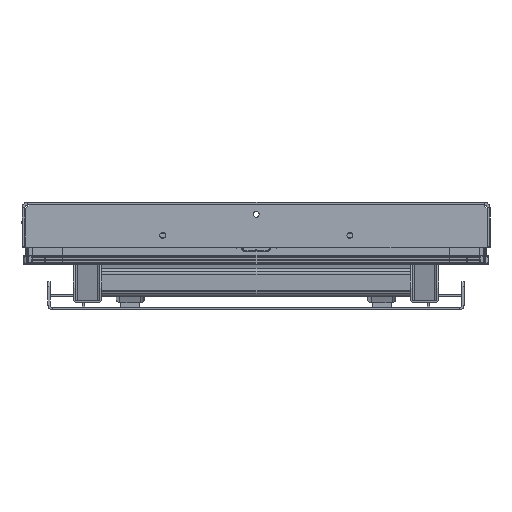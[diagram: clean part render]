
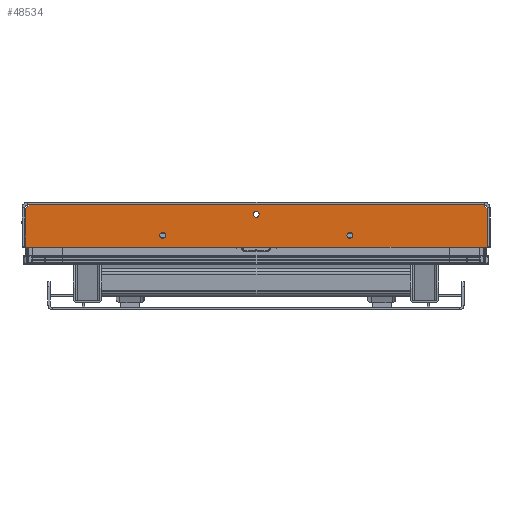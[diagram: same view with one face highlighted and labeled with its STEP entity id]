
A CAD part, front view. The second image highlights one B-rep face of the part: STEP entity #48534.
In plain terms, the highlighted planar face has unit normal (0, -1, 0) as drawn and (0, 0, 1) by its records, which use the part's own axes.
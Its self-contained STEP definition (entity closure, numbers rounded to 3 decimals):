
#3129=PLANE('',#52356);
#5491=LINE('',#73436,#9822);
#5497=LINE('',#73447,#9828);
#5502=LINE('',#73458,#9833);
#5505=LINE('',#73463,#9836);
#5506=LINE('',#73466,#9837);
#5508=LINE('',#73469,#9839);
#9822=VECTOR('',#60162,10.);
#9828=VECTOR('',#60170,10.);
#9833=VECTOR('',#60179,10.);
#9836=VECTOR('',#60184,10.);
#9837=VECTOR('',#60187,10.);
#9839=VECTOR('',#60191,10.);
#12974=FACE_BOUND('',#16917,.T.);
#12975=FACE_BOUND('',#16918,.T.);
#12976=FACE_BOUND('',#16919,.T.);
#14081=FACE_OUTER_BOUND('',#16916,.T.);
#16916=EDGE_LOOP('',(#37468,#37469,#37470,#37471,#37472,#37473));
#16917=EDGE_LOOP('',(#37474));
#16918=EDGE_LOOP('',(#37475));
#16919=EDGE_LOOP('',(#37476));
#19851=CIRCLE('',#52341,6.25);
#19853=CIRCLE('',#52344,6.25);
#19855=CIRCLE('',#52347,6.25);
#22546=VERTEX_POINT('',#73419);
#22548=VERTEX_POINT('',#73424);
#22550=VERTEX_POINT('',#73429);
#22552=VERTEX_POINT('',#73434);
#22553=VERTEX_POINT('',#73435);
#22557=VERTEX_POINT('',#73445);
#22561=VERTEX_POINT('',#73457);
#22562=VERTEX_POINT('',#73461);
#22563=VERTEX_POINT('',#73465);
#28029=EDGE_CURVE('',#22546,#22546,#19851,.T.);
#28031=EDGE_CURVE('',#22548,#22548,#19853,.T.);
#28033=EDGE_CURVE('',#22550,#22550,#19855,.T.);
#28035=EDGE_CURVE('',#22552,#22553,#5491,.T.);
#28041=EDGE_CURVE('',#22557,#22552,#5497,.T.);
#28046=EDGE_CURVE('',#22561,#22557,#5502,.T.);
#28049=EDGE_CURVE('',#22562,#22561,#5505,.T.);
#28050=EDGE_CURVE('',#22553,#22563,#5506,.T.);
#28052=EDGE_CURVE('',#22563,#22562,#5508,.T.);
#37468=ORIENTED_EDGE('',*,*,#28035,.F.);
#37469=ORIENTED_EDGE('',*,*,#28041,.F.);
#37470=ORIENTED_EDGE('',*,*,#28046,.F.);
#37471=ORIENTED_EDGE('',*,*,#28049,.F.);
#37472=ORIENTED_EDGE('',*,*,#28052,.F.);
#37473=ORIENTED_EDGE('',*,*,#28050,.F.);
#37474=ORIENTED_EDGE('',*,*,#28029,.T.);
#37475=ORIENTED_EDGE('',*,*,#28031,.T.);
#37476=ORIENTED_EDGE('',*,*,#28033,.T.);
#48534=ADVANCED_FACE('',(#14081,#12974,#12975,#12976),#3129,.T.);
#52341=AXIS2_PLACEMENT_3D('',#73420,#60144,#60145);
#52344=AXIS2_PLACEMENT_3D('',#73425,#60150,#60151);
#52347=AXIS2_PLACEMENT_3D('',#73430,#60156,#60157);
#52356=AXIS2_PLACEMENT_3D('',#73470,#60192,#60193);
#60144=DIRECTION('center_axis',(0.,0.,-1.));
#60145=DIRECTION('ref_axis',(1.,0.,0.));
#60150=DIRECTION('center_axis',(0.,0.,-1.));
#60151=DIRECTION('ref_axis',(1.,0.,0.));
#60156=DIRECTION('center_axis',(0.,0.,-1.));
#60157=DIRECTION('ref_axis',(1.,0.,0.));
#60162=DIRECTION('',(0.707,-0.707,0.));
#60170=DIRECTION('',(1.,0.,0.));
#60179=DIRECTION('',(0.707,0.707,0.));
#60184=DIRECTION('',(0.,1.,0.));
#60187=DIRECTION('',(0.,-1.,0.));
#60191=DIRECTION('',(-1.,0.,0.));
#60192=DIRECTION('center_axis',(0.,0.,1.));
#60193=DIRECTION('ref_axis',(1.,0.,0.));
#73419=CARTESIAN_POINT('',(-287.25,25.,6.));
#73420=CARTESIAN_POINT('Origin',(-293.5,25.,6.));
#73424=CARTESIAN_POINT('',(-487.25,70.,6.));
#73425=CARTESIAN_POINT('Origin',(-493.5,70.,6.));
#73429=CARTESIAN_POINT('',(-687.25,25.,6.));
#73430=CARTESIAN_POINT('Origin',(-693.5,25.,6.));
#73434=CARTESIAN_POINT('',(-8.,90.,6.));
#73435=CARTESIAN_POINT('',(0.,82.,6.));
#73436=CARTESIAN_POINT('',(-116.125,198.125,6.));
#73445=CARTESIAN_POINT('',(-979.,90.,6.));
#73447=CARTESIAN_POINT('',(0.,90.,6.));
#73457=CARTESIAN_POINT('',(-987.,82.,6.));
#73458=CARTESIAN_POINT('',(-870.875,198.125,6.));
#73461=CARTESIAN_POINT('',(-987.,0.,6.));
#73463=CARTESIAN_POINT('',(-987.,90.,6.));
#73465=CARTESIAN_POINT('',(0.,0.,6.));
#73466=CARTESIAN_POINT('',(0.,0.,6.));
#73469=CARTESIAN_POINT('',(-987.,0.,6.));
#73470=CARTESIAN_POINT('Origin',(-493.5,45.,6.));
